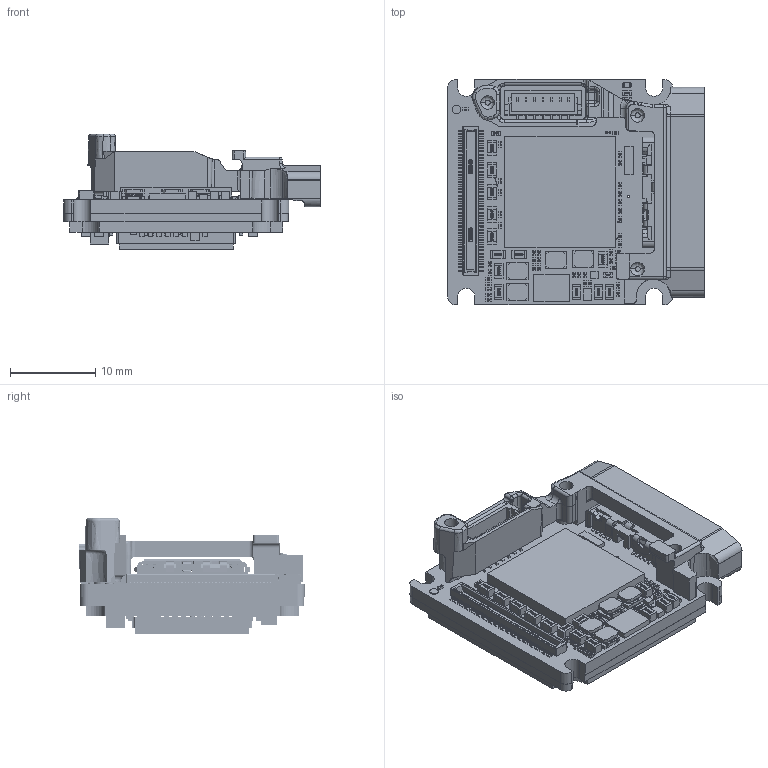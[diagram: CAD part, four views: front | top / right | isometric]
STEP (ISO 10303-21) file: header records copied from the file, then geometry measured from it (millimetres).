
FILE_DESCRIPTION (( 'STEP AP214' ), '1' );
FILE_NAME ('Alvium-USB90-Bare-Board-IMX14x14.STEP', '2022-10-18T13:06:02', ( '' ), ( '' ), 'SwSTEP 2.0', 'SolidWorks 2021', '' );
FILE_SCHEMA (( 'AUTOMOTIVE_DESIGN' ));
Length unit declared in the file: millimetre
Products named in the file (1): Alvium-USB90-Bare-Board-IMX14x14
Bounding box: 30.1 x 26.45 x 13.54 mm (x, y, z)
Surface area: 5639.5 mm2 (no closed solid volume)
Topology: 0 solids, 167 shells, 10981 faces, 28078 edges, 18398 vertices
Faces by surface type: plane 5417, bspline 4439, cylinder 1047, cone 38, torus 32, sphere 8
Entity records: 704472 total; most frequent: CARTESIAN_POINT 346415, ORIENTED_EDGE 56160, DIRECTION 34132, EDGE_CURVE 28080, VERTEX_POINT 18411, VECTOR 16854, LINE 16854, EDGE_LOOP 12003
